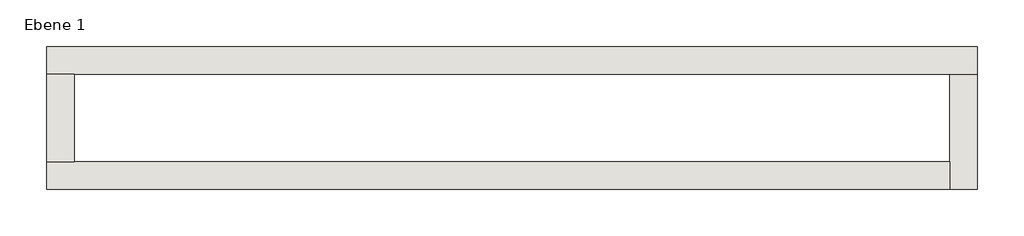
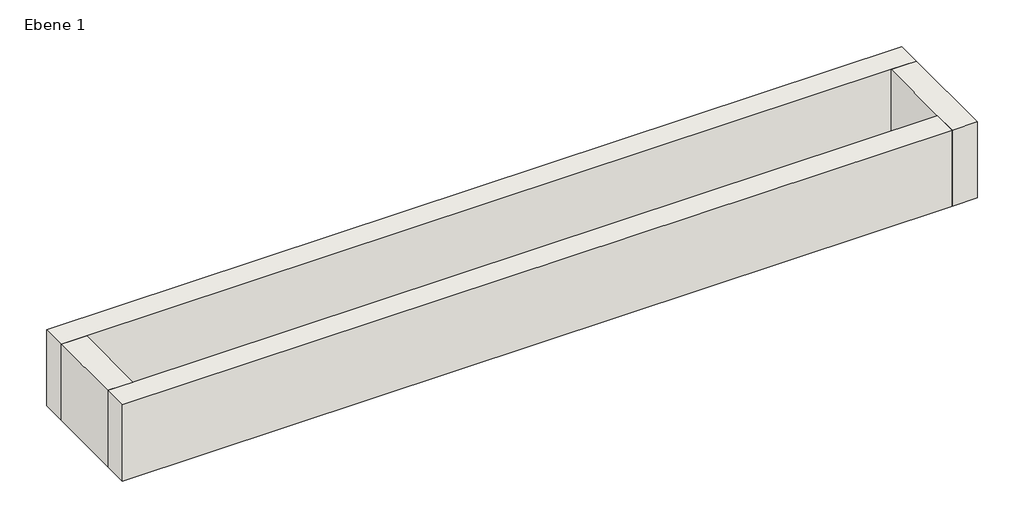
# One storey: 4 walls.
"""IFC4 building model written with IfcOpenShell, lengths in millimetres."""

from ifc_helpers import new_model, si_unit, origin, origin_with_axes, place, context, project, spatial, polyline, outline, extrude, faceted_brep, element, save

model = new_model("IFC4")

# Units and contexts
model_context = context("Model", 3, world=origin())
ifc_project = project(units=[si_unit("LENGTHUNIT", "METRE", prefix="MILLI")], contexts=[model_context])

# Site, building, storey
site = spatial("IfcSite", under=ifc_project)
building = spatial("IfcBuilding", under=site)
storey = spatial("IfcBuildingStorey", under=building, Name="Ebene 1", Elevation=0.0)

# Walls
placement = place(None, origin())
element("IfcWall", 1, ObjectType="Aussenwand Ziegel 0.25 WD 5", at=placement, inside=storey, context=model_context, shape_type="Brep", body=[
    faceted_brep([(-6954.4663139, 1869.5260778, 0.0), (-6639.4663139, 1869.5260778, 0.0), (3360.5336861, 1869.5260778, 0.0), (3675.5336861, 1869.5260778, 0.0), (3675.5336861, 1869.5260778, 1000.0), (3360.5336861, 1869.5260778, 1000.0), (-6639.4663139, 1869.5260778, 1000.0), (-6954.4663139, 1869.5260778, 1000.0), (-6954.4663139, 2184.5260778, 0.0), (-6954.4663139, 2184.5260778, 1000.0), (3675.5336861, 2184.5260778, 1000.0), (3675.5336861, 2184.5260778, 0.0)], [[[0, 1, 2, 3, 4, 5, 6, 7]], [[8, 9, 10, 11]], [[3, 2, 1, 0, 8, 11]], [[7, 6, 5, 4, 10, 9]], [[4, 3, 11, 10]], [[0, 7, 9, 8]]]),
])
element("IfcWall", 2, ObjectType="Aussenwand Ziegel 0.25 WD 5", at=placement, inside=storey, context=model_context, shape_type="Brep", body=[
    faceted_brep([(3360.5336861, 1869.5260778, 0.0), (3360.5336861, 869.5260778, 0.0), (3360.5336861, 554.5260778, 0.0), (3360.5336861, 554.5260778, 1000.0), (3360.5336861, 869.5260778, 1000.0), (3360.5336861, 1869.5260778, 1000.0), (3675.5336861, 1869.5260778, 0.0), (3675.5336861, 1869.5260778, 1000.0), (3675.5336861, 554.5260778, 1000.0), (3675.5336861, 554.5260778, 0.0)], [[[0, 1, 2, 3, 4, 5]], [[6, 7, 8, 9]], [[2, 1, 0, 6, 9]], [[5, 4, 3, 8, 7]], [[3, 2, 9, 8]], [[0, 5, 7, 6]]]),
])
element("IfcWall", 3, ObjectType="Aussenwand Ziegel 0.25 WD 5", at=placement, inside=storey, context=model_context, shape_type="Brep", body=[
    faceted_brep([(3360.5336861, 869.5260778, 0.0), (-6639.4663139, 869.5260778, 0.0), (-6954.4663139, 869.5260778, 0.0), (-6954.4663139, 869.5260778, 1000.0), (-6639.4663139, 869.5260778, 1000.0), (3360.5336861, 869.5260778, 1000.0), (3360.5336861, 554.5260778, 0.0), (3360.5336861, 554.5260778, 1000.0), (-6954.4663139, 554.5260778, 1000.0), (-6954.4663139, 554.5260778, 0.0)], [[[0, 1, 2, 3, 4, 5]], [[6, 7, 8, 9]], [[2, 1, 0, 6, 9]], [[5, 4, 3, 8, 7]], [[3, 2, 9, 8]], [[0, 5, 7, 6]]]),
])
element("IfcWall", 4, ObjectType="Aussenwand Ziegel 0.25 WD 5", at=placement, inside=storey, context=model_context, shape_type="SweptSolid", body=[
    extrude(outline(polyline([(-6639.4663139, 1869.5260778), (-6639.4663139, 869.5260778), (-6954.4663139, 869.5260778), (-6954.4663139, 1869.5260778), (-6639.4663139, 1869.5260778)])), origin_with_axes(), (0.0, 0.0, 1.0), 1000.0),
])

save(model, "model.ifc")
